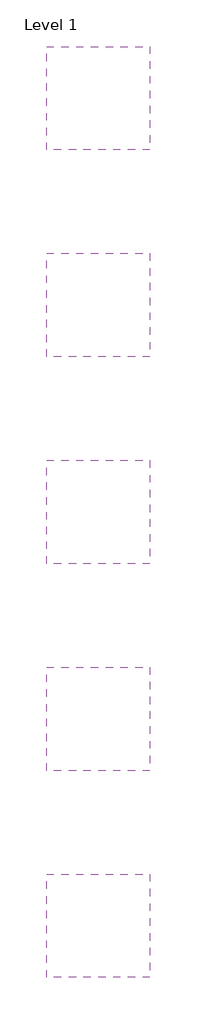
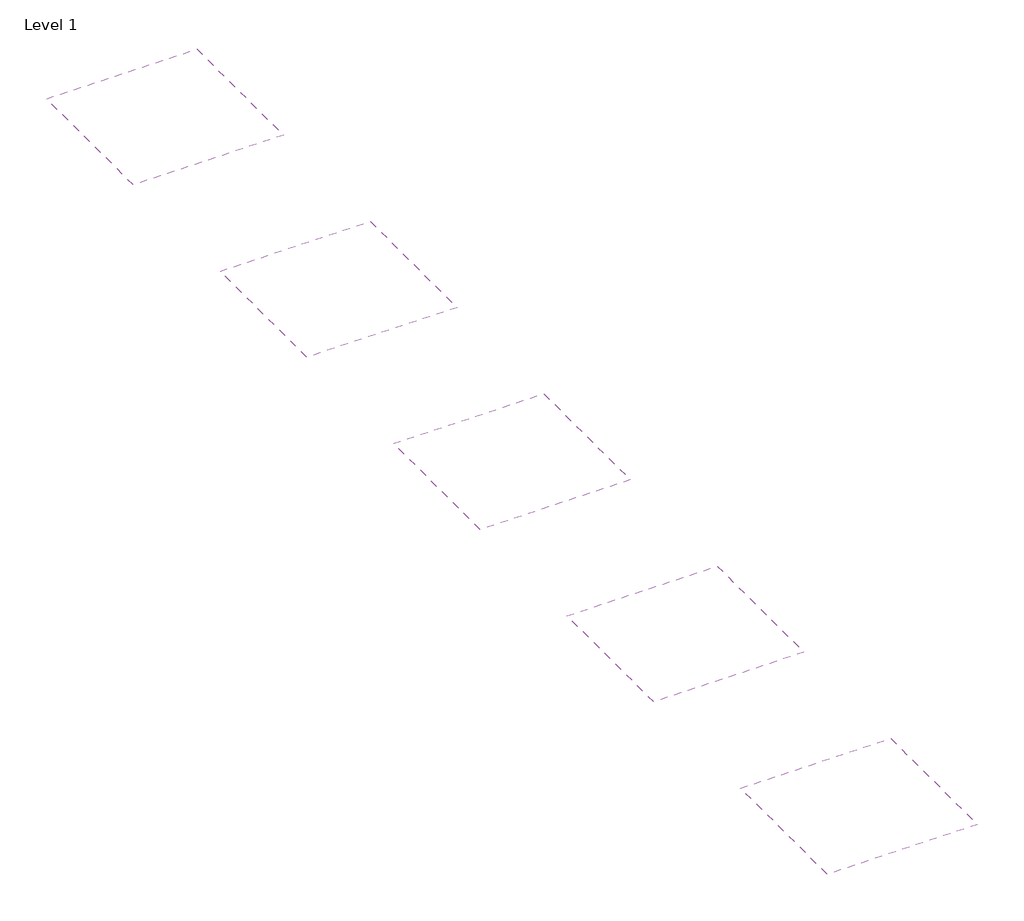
# One storey: 5 coverings.
"""IFC4 building model written with IfcOpenShell, lengths in millimetres."""

from ifc_helpers import new_model, si_unit, frame, origin, place, context, project, spatial, polyline, outline, extrude, element, save

model = new_model("IFC4")

# Units and contexts
model_context = context("Model", 3, world=origin())
ifc_project = project(units=[si_unit("LENGTHUNIT", "METRE", prefix="MILLI")], contexts=[model_context])

# Site, building, storey
site = spatial("IfcSite", under=ifc_project)
building = spatial("IfcBuilding", under=site)
storey = spatial("IfcBuildingStorey", under=building, Name="Level 1", Elevation=0.0)

# Coverings
placement = place(None, origin())
element("IfcCovering", 1, ObjectType="NBS_ArmstrongCeilingsLtd_UnitModularSuspendedCeilingSystem_SaharaBoard-Prelude24Exposed_600x600x15mm_GB", at=placement, inside=storey, context=model_context, shape_type="SweptSolid", body=[
    extrude(outline(polyline([(2500.0, 22500.0), (2500.0, 20000.0), (0.0, 20000.0), (0.0, 22500.0), (2500.0, 22500.0)])), frame((0.0, 0.0, 2600.0), z_axis=(0.0, 0.0, 1.0), x_axis=(1.0, 0.0, 0.0)), (0.0, 0.0, 1.0), 43.0),
])
element("IfcCovering", 2, ObjectType="NBS_ArmstrongCeilingsLtd_UnitModularSuspendedCeilingSystem_SaharaBoard-Prelude24Exposed_625x625x15mm_DE", at=placement, inside=storey, context=model_context, shape_type="SweptSolid", body=[
    extrude(outline(polyline([(2500.0, 17500.0), (2500.0, 15000.0), (0.0, 15000.0), (0.0, 17500.0), (2500.0, 17500.0)])), frame((0.0, 0.0, 2600.0), z_axis=(0.0, 0.0, 1.0), x_axis=(1.0, 0.0, 0.0)), (0.0, 0.0, 1.0), 43.0),
])
element("IfcCovering", 3, ObjectType="NBS_ArmstrongCeilingsLtd_UnitModularSuspendedCeilingSystem_SaharaBoard-Prelude24Exposed_675x675x15mm_FR", at=placement, inside=storey, context=model_context, shape_type="SweptSolid", body=[
    extrude(outline(polyline([(2500.0, 12500.0), (2500.0, 10000.0), (0.0, 10000.0), (0.0, 12500.0), (2500.0, 12500.0)])), frame((0.0, 0.0, 2600.0), z_axis=(0.0, 0.0, 1.0), x_axis=(1.0, 0.0, 0.0)), (0.0, 0.0, 1.0), 43.0),
])
element("IfcCovering", 4, ObjectType="NBS_ArmstrongCeilingsLtd_UnitModularSuspendedCeilingSystem_SaharaBoard-Prelude24Exposed_1200x600x15mm_GB", at=placement, inside=storey, context=model_context, shape_type="SweptSolid", body=[
    extrude(outline(polyline([(2500.0, 7500.0), (2500.0, 5000.0), (0.0, 5000.0), (0.0, 7500.0), (2500.0, 7500.0)])), frame((0.0, 0.0, 2600.0), z_axis=(0.0, 0.0, 1.0), x_axis=(1.0, 0.0, 0.0)), (0.0, 0.0, 1.0), 43.0),
])
element("IfcCovering", 5, ObjectType="NBS_ArmstrongCeilingsLtd_UnitModularSuspendedCeilingSystem_SaharaBoard-Prelude24Exposed_1250x625x15mm_DE", at=placement, inside=storey, context=model_context, shape_type="SweptSolid", body=[
    extrude(outline(polyline([(2500.0, 2500.0), (2500.0, 0.0), (0.0, 0.0), (0.0, 2500.0), (2500.0, 2500.0)])), frame((0.0, 0.0, 2600.0), z_axis=(0.0, 0.0, 1.0), x_axis=(1.0, 0.0, 0.0)), (0.0, 0.0, 1.0), 43.0),
])

save(model, "model.ifc")
